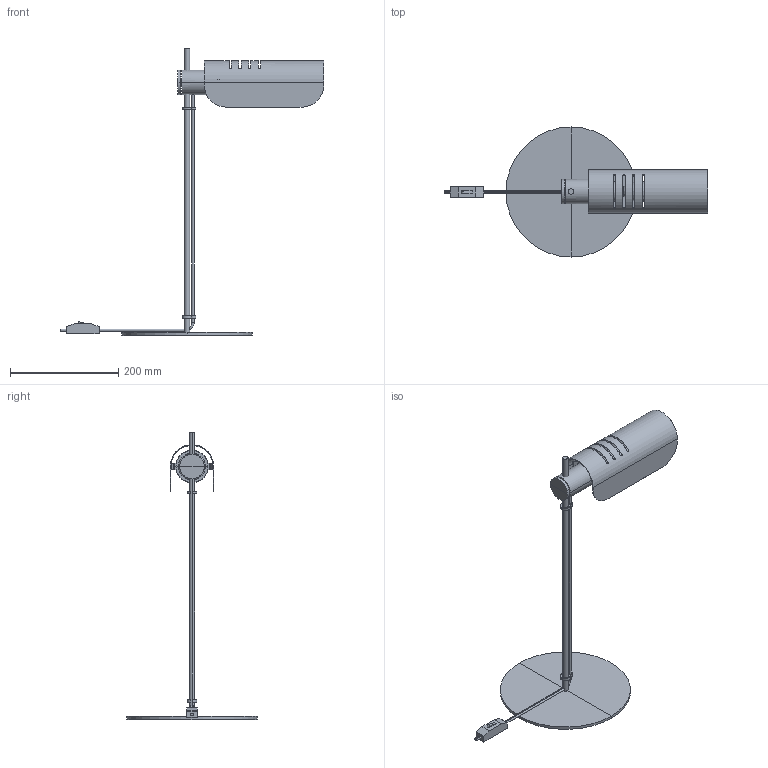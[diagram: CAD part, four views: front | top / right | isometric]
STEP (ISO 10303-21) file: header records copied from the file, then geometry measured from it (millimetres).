
FILE_DESCRIPTION(/* description */ (''),/* implementation_level */ '2;1');
FILE_NAME(/* name */ 'martinica_tablelamp.step',/* time_stamp */ '2024-11-05T09:25:06+01:00',/* author */ ('RenataManzini'),/* organization */ (''),/* preprocessor_version */ 'ST-DEVELOPER v20',/* originating_system */ 'AutoCAD Mechanical',/* authorisation */ '');
FILE_SCHEMA (('AUTOMOTIVE_DESIGN { 1 0 10303 214 3 1 1 }'));
Length unit declared in the file: millimetre
Products named in the file (4): Product; FamilyGeomCombination_635160-_3D_; FamilyGeomCombination_635183-_3D_; martinica_pantalla - Lamp Holder-642312-_3D_
Assembly tree (3 placements, depth 2):
  Product
    FamilyGeomCombination_635160-_3D_
    FamilyGeomCombination_635183-_3D_
    martinica_pantalla - Lamp Holder-642312-_3D_
Bounding box: 485.89 x 240.02 x 530 mm (x, y, z)
Volume: 624381.6 mm3; surface area: 255575.7 mm2
Topology: 8 solids, 8 shells, 166 faces, 408 edges, 255 vertices
Faces by surface type: plane 83, cylinder 65, torus 10, bspline 6, cone 2
Entity records: 5877 total; most frequent: CARTESIAN_POINT 1910, DIRECTION 815, ORIENTED_EDGE 806, EDGE_CURVE 403, AXIS2_PLACEMENT_3D 304, VERTEX_POINT 254, LINE 207, VECTOR 207
